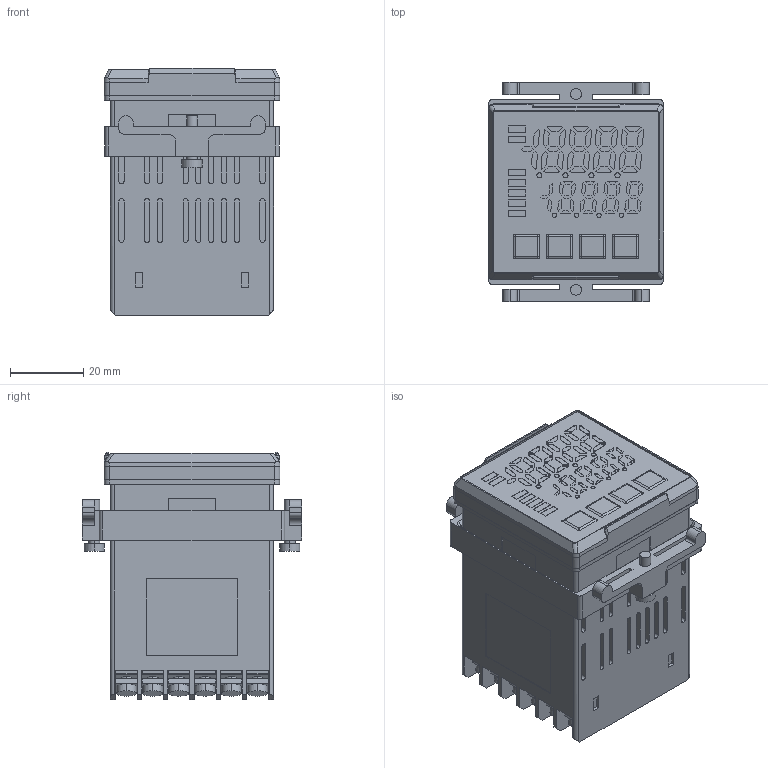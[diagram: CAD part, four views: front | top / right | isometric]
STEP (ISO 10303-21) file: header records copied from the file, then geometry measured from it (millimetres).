
FILE_DESCRIPTION (( 'STEP AP203' ), '1' );
FILE_NAME ('AS_BCS2_141107.STEP', '2014-11-28T07:09:27', ( 'soyama' ), ( 'Hewlett-Packard Company' ), 'SwSTEP 2.0', 'SolidWorks 2013', '' );
FILE_SCHEMA (( 'CONFIG_CONTROL_DESIGN' ));
Length unit declared in the file: millimetre
Products named in the file (4): BCS2_141107; 僈僗働僢僩A_BCS2_141024; 取付枠_ACS_141024; AS_BCS2_141107
Assembly tree (3 placements, depth 2):
  AS_BCS2_141107
    BCS2_141107
    僈僗働僢僩A_BCS2_141024
    取付枠_ACS_141024
Bounding box: 48 x 60 x 67.5 mm (x, y, z)
Volume: 127547.1 mm3; surface area: 31971.8 mm2
Topology: 3 solids, 3 shells, 1464 faces, 3739 edges, 2490 vertices
Faces by surface type: plane 1046, cylinder 414, cone 4
Entity records: 44517 total; most frequent: CARTESIAN_POINT 7935, ORIENTED_EDGE 7478, DIRECTION 7379, EDGE_CURVE 3739, VECTOR 2895, LINE 2895, VERTEX_POINT 2490, AXIS2_PLACEMENT_3D 2242
